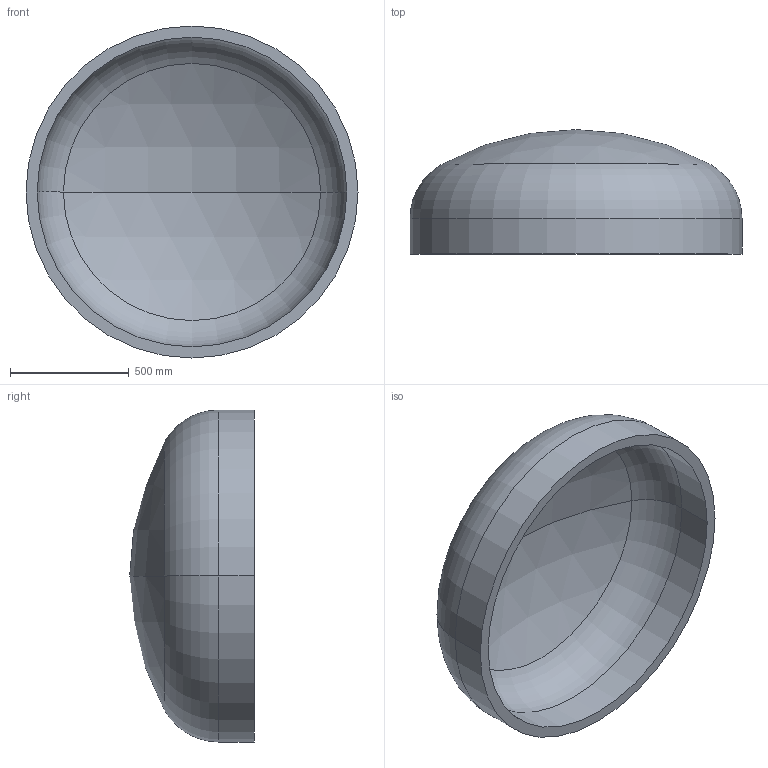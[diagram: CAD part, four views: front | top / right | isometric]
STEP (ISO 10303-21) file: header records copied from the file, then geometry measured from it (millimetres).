
FILE_DESCRIPTION (( 'STEP AP203' ), '1' );
FILE_NAME ('DIN 28013 Korbbogenform_-_Boden DIN 28013 - 1400 x 150 - I - s=47.step', '2016-07-01T10:19:43', ( '' ), ( '' ), 'SwSTEP 2.0', 'SolidWorks 2013', '' );
FILE_SCHEMA (( 'CONFIG_CONTROL_DESIGN' ));
Length unit declared in the file: millimetre
Products named in the file (1): DIN 28013 Korbbogenform_-_Boden DIN 28013 - 1400 x 150 - I - s=47
Bounding box: 1400 x 525.05 x 1400 mm (x, y, z)
Volume: 125830151 mm3; surface area: 5558876.7 mm2
Topology: 1 solids, 1 shells, 13 faces, 24 edges, 14 vertices
Faces by surface type: torus 4, cylinder 4, sphere 4, plane 1
Entity records: 407 total; most frequent: DIRECTION 72, CARTESIAN_POINT 52, ORIENTED_EDGE 48, AXIS2_PLACEMENT_3D 34, EDGE_CURVE 24, CIRCLE 20, EDGE_LOOP 14, VERTEX_POINT 14
